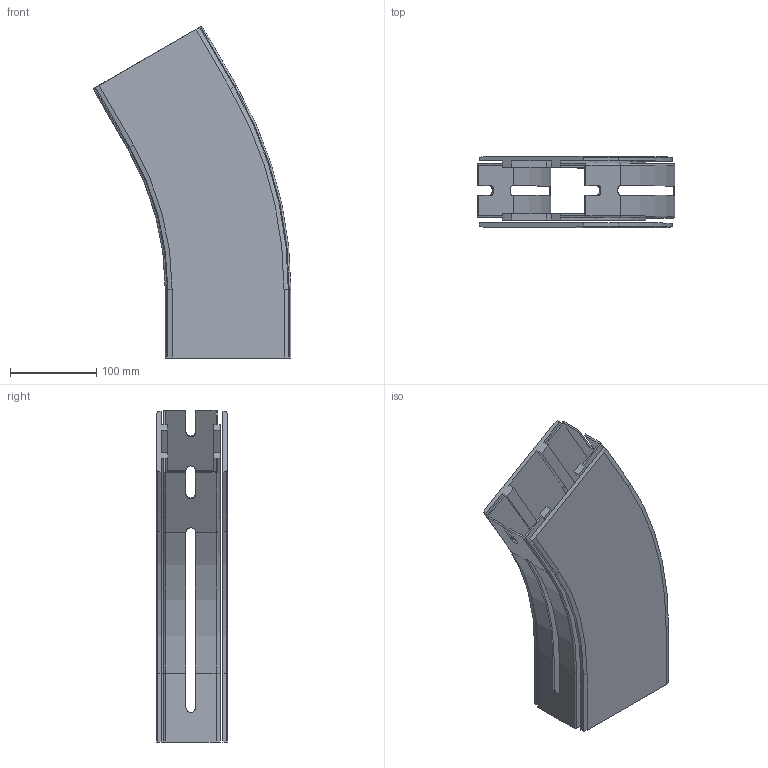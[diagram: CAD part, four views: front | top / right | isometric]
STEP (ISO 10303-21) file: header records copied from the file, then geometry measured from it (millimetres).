
FILE_DESCRIPTION((''),'2;1');
FILE_NAME('C:\Vault Klient\Projekt\Koncept konstruktion\Serie 540 Balk\540-5240.stp','2010-11-24T14:34:33',('Mathias'),(''),'Autodesk Inventor 2011','Autodesk Inventor 2011','');
FILE_SCHEMA(('AUTOMOTIVE_DESIGN { 1 0 10303 214 1 1 1 1 }'));
Length unit declared in the file: millimetre
Products named in the file (1): 540-5240
Bounding box: 229.81 x 82 x 385.78 mm (x, y, z)
Volume: 834763.1 mm3; surface area: 432641 mm2
Topology: 2 solids, 2 shells, 163 faces, 458 edges, 300 vertices
Faces by surface type: plane 103, cylinder 36, bspline 14, cone 6, torus 4
Entity records: 5398 total; most frequent: CARTESIAN_POINT 1116, ORIENTED_EDGE 916, DIRECTION 814, EDGE_CURVE 458, VECTOR 346, LINE 346, VERTEX_POINT 300, AXIS2_PLACEMENT_3D 234
